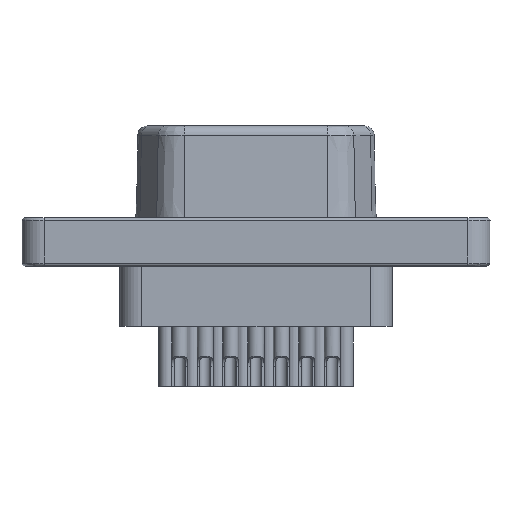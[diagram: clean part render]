
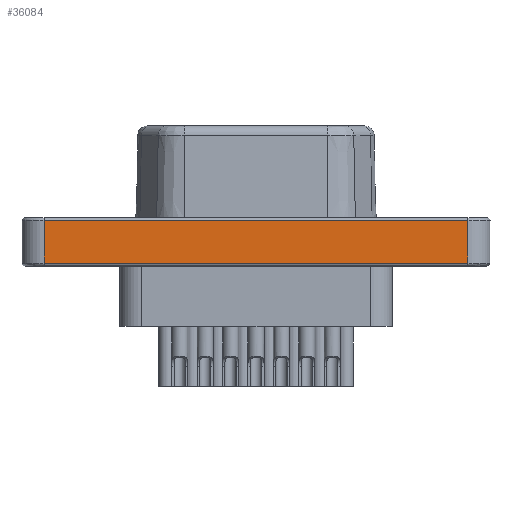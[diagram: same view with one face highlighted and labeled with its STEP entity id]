
A CAD part, front view. The second image highlights one B-rep face of the part: STEP entity #36084.
In plain terms, the highlighted planar face has unit normal (0, -1, 0).
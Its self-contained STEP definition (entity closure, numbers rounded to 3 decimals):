
#374 = VECTOR ( 'NONE', #15956, 1000. ) ;
#626 = LINE ( 'NONE', #4866, #44800 ) ;
#4866 = CARTESIAN_POINT ( 'NONE',  ( -11.003, -3.675, -4.75 ) ) ;
#5664 = ORIENTED_EDGE ( 'NONE', *, *, #41286, .F. ) ;
#5671 = CARTESIAN_POINT ( 'NONE',  ( 0., -3.675, -5.8 ) ) ;
#5786 = CARTESIAN_POINT ( 'NONE',  ( 10.58, -3.675, -6.85 ) ) ;
#7566 = CARTESIAN_POINT ( 'NONE',  ( -10.58, -3.675, -4.75 ) ) ;
#8200 = ORIENTED_EDGE ( 'NONE', *, *, #27517, .F. ) ;
#8542 = AXIS2_PLACEMENT_3D ( 'NONE', #5671, #51653, #30096 ) ;
#9457 = ORIENTED_EDGE ( 'NONE', *, *, #45538, .F. ) ;
#9655 = CARTESIAN_POINT ( 'NONE',  ( -10.58, -3.675, -6.85 ) ) ;
#11677 = VECTOR ( 'NONE', #13767, 1000. ) ;
#13327 = VECTOR ( 'NONE', #18701, 1000. ) ;
#13571 = DIRECTION ( 'NONE',  ( 1., 0., 0. ) ) ;
#13767 = DIRECTION ( 'NONE',  ( 0., 0., -1. ) ) ;
#15956 = DIRECTION ( 'NONE',  ( 0., 0., 1. ) ) ;
#16356 = VERTEX_POINT ( 'NONE', #7566 ) ;
#18701 = DIRECTION ( 'NONE',  ( -1., 0., 0. ) ) ;
#21947 = PLANE ( 'NONE',  #8542 ) ;
#22598 = CARTESIAN_POINT ( 'NONE',  ( 10.58, -3.675, -4.75 ) ) ;
#22945 = ORIENTED_EDGE ( 'NONE', *, *, #43238, .F. ) ;
#23457 = CARTESIAN_POINT ( 'NONE',  ( 0., -3.675, -6.85 ) ) ;
#26669 = LINE ( 'NONE', #47703, #11677 ) ;
#27517 = EDGE_CURVE ( 'NONE', #44997, #32944, #26669, .T. ) ;
#30096 = DIRECTION ( 'NONE',  ( 0., 0., 1. ) ) ;
#32120 = EDGE_LOOP ( 'NONE', ( #5664, #8200, #9457, #22945 ) ) ;
#32944 = VERTEX_POINT ( 'NONE', #5786 ) ;
#36084 = ADVANCED_FACE ( 'NONE', ( #44100 ), #21947, .F. ) ;
#36725 = CARTESIAN_POINT ( 'NONE',  ( -10.58, -3.675, -5.8 ) ) ;
#38902 = VERTEX_POINT ( 'NONE', #9655 ) ;
#41286 = EDGE_CURVE ( 'NONE', #32944, #38902, #52324, .T. ) ;
#43238 = EDGE_CURVE ( 'NONE', #38902, #16356, #54354, .T. ) ;
#44100 = FACE_OUTER_BOUND ( 'NONE', #32120, .T. ) ;
#44800 = VECTOR ( 'NONE', #13571, 1000. ) ;
#44997 = VERTEX_POINT ( 'NONE', #22598 ) ;
#45538 = EDGE_CURVE ( 'NONE', #16356, #44997, #626, .T. ) ;
#47703 = CARTESIAN_POINT ( 'NONE',  ( 10.58, -3.675, -6.892 ) ) ;
#51653 = DIRECTION ( 'NONE',  ( 0., 1., 0. ) ) ;
#52324 = LINE ( 'NONE', #23457, #13327 ) ;
#54354 = LINE ( 'NONE', #36725, #374 ) ;
